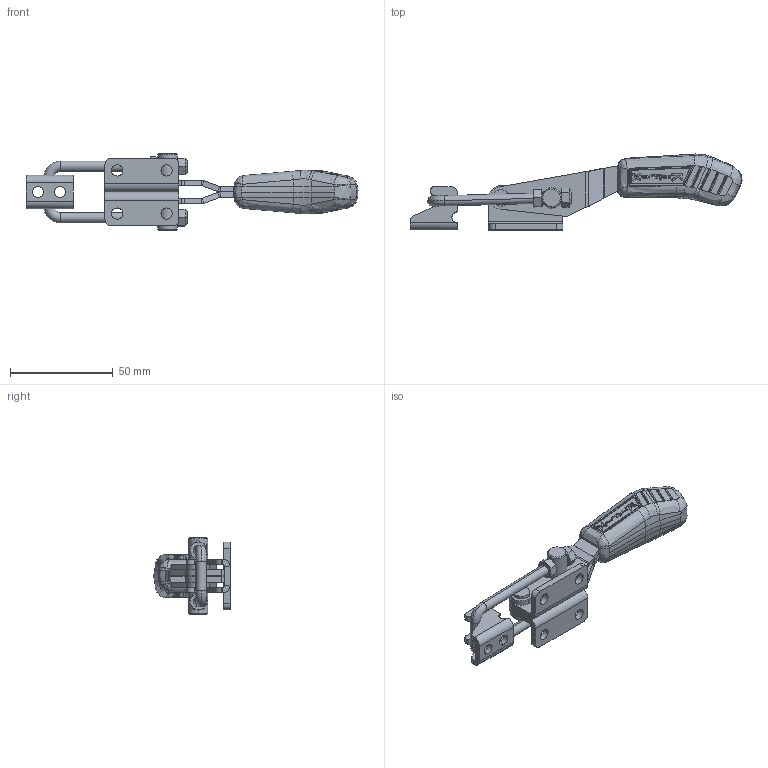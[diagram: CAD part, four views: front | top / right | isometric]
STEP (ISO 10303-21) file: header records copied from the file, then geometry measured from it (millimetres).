
FILE_DESCRIPTION (( 'STEP AP203' ), '1' );
FILE_NAME ('KF-743 D.STEP', '2014-08-20T20:10:02', ( 'Ricardo' ), ( '' ), 'SwSTEP 2.0', 'SolidWorks 2013', '' );
FILE_SCHEMA (( 'CONFIG_CONTROL_DESIGN' ));
Length unit declared in the file: millimetre
Products named in the file (12): 07.60005; 01.10053_Esquerda; 06.50023; 16.20034; KF-743 D; 03.20018; 15.10026; 02.12039_Direita; 11.50005; 02.12039_Esquerda; 11.50013; 01.10053_Direita
Assembly tree (13 placements, depth 2):
  KF-743 D
    02.12039_Direita
    02.12039_Esquerda
    01.10053_Direita
    01.10053_Esquerda
    16.20034
    03.20018
    15.10026
    11.50005  x2
    11.50013  x2
    07.60005
    06.50023
Bounding box: 161.44 x 36.96 x 37 mm (x, y, z)
Volume: 37337.9 mm3; surface area: 25421 mm2
Topology: 13 solids, 13 shells, 918 faces, 2324 edges, 1442 vertices
Faces by surface type: bspline 281, cylinder 274, plane 239, cone 66, sphere 50, torus 8
Entity records: 34508 total; most frequent: CARTESIAN_POINT 14927, ORIENTED_EDGE 4412, DIRECTION 3000, EDGE_CURVE 2206, VERTEX_POINT 1375, AXIS2_PLACEMENT_3D 1126, EDGE_LOOP 921, ADVANCED_FACE 869
